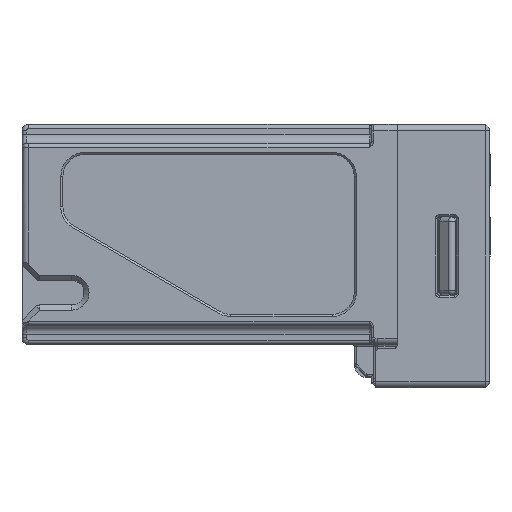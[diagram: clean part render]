
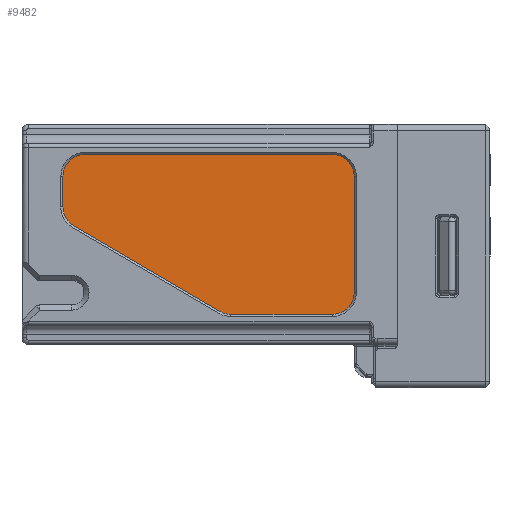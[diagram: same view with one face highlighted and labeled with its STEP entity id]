
A CAD part, left-side view. The second image highlights one B-rep face of the part: STEP entity #9482.
In plain terms, the highlighted planar face has unit normal (-1, 0, 0) as drawn and (1, 0, 0) by its records, which use the part's own axes.
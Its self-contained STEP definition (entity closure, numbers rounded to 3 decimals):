
#157 = VECTOR ( 'NONE', #87071, 1000. ) ;
#186 = CARTESIAN_POINT ( 'NONE',  ( 36., 19.35, 1. ) ) ;
#635 = VECTOR ( 'NONE', #37654, 1000. ) ;
#9482 = ADVANCED_FACE ( 'NONE', ( #66520 ), #32694, .F. ) ;
#10845 = EDGE_CURVE ( 'NONE', #25919, #47704, #72549, .T. ) ;
#12766 = EDGE_CURVE ( 'NONE', #52065, #54283, #22662, .T. ) ;
#14540 = EDGE_CURVE ( 'NONE', #54283, #25919, #67556, .T. ) ;
#18464 = ORIENTED_EDGE ( 'NONE', *, *, #14540, .T. ) ;
#22662 = LINE ( 'NONE', #38125, #635 ) ;
#25220 = DIRECTION ( 'NONE',  ( 0., 0., 1. ) ) ;
#25919 = VERTEX_POINT ( 'NONE', #58819 ) ;
#32694 = PLANE ( 'NONE',  #70456 ) ;
#37654 = DIRECTION ( 'NONE',  ( 0., -1., 0. ) ) ;
#38125 = CARTESIAN_POINT ( 'NONE',  ( 36., -19.35, 80.1 ) ) ;
#41863 = LINE ( 'NONE', #76628, #79226 ) ;
#47358 = CARTESIAN_POINT ( 'NONE',  ( 36., -19.35, 80.6 ) ) ;
#47704 = VERTEX_POINT ( 'NONE', #186 ) ;
#51740 = ORIENTED_EDGE ( 'NONE', *, *, #10845, .T. ) ;
#52065 = VERTEX_POINT ( 'NONE', #75708 ) ;
#54283 = VERTEX_POINT ( 'NONE', #81899 ) ;
#58819 = CARTESIAN_POINT ( 'NONE',  ( 36., -19.35, 1. ) ) ;
#60060 = ORIENTED_EDGE ( 'NONE', *, *, #68846, .T. ) ;
#65157 = VECTOR ( 'NONE', #81646, 1000. ) ;
#66520 = FACE_OUTER_BOUND ( 'NONE', #74462, .T. ) ;
#67556 = LINE ( 'NONE', #47358, #65157 ) ;
#68366 = CARTESIAN_POINT ( 'NONE',  ( 36., -20.35, 80.6 ) ) ;
#68846 = EDGE_CURVE ( 'NONE', #47704, #52065, #41863, .T. ) ;
#70456 = AXIS2_PLACEMENT_3D ( 'NONE', #68366, #83833, #25220 ) ;
#72549 = LINE ( 'NONE', #86612, #157 ) ;
#74462 = EDGE_LOOP ( 'NONE', ( #60060, #91204, #18464, #51740 ) ) ;
#75708 = CARTESIAN_POINT ( 'NONE',  ( 36., 19.35, 80.1 ) ) ;
#76628 = CARTESIAN_POINT ( 'NONE',  ( 36., 19.35, 80.6 ) ) ;
#79226 = VECTOR ( 'NONE', #90695, 1000. ) ;
#81646 = DIRECTION ( 'NONE',  ( 0., 0., -1. ) ) ;
#81899 = CARTESIAN_POINT ( 'NONE',  ( 36., -19.35, 80.1 ) ) ;
#83833 = DIRECTION ( 'NONE',  ( -1., 0., 0. ) ) ;
#86612 = CARTESIAN_POINT ( 'NONE',  ( 36., -20.35, 1. ) ) ;
#87071 = DIRECTION ( 'NONE',  ( 0., 1., 0. ) ) ;
#90695 = DIRECTION ( 'NONE',  ( 0., 0., 1. ) ) ;
#91204 = ORIENTED_EDGE ( 'NONE', *, *, #12766, .T. ) ;
